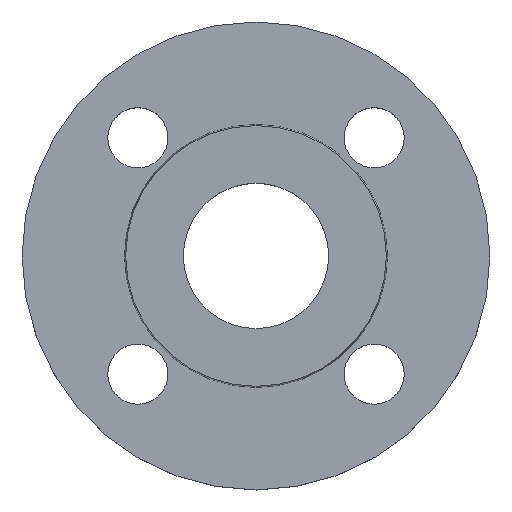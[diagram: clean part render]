
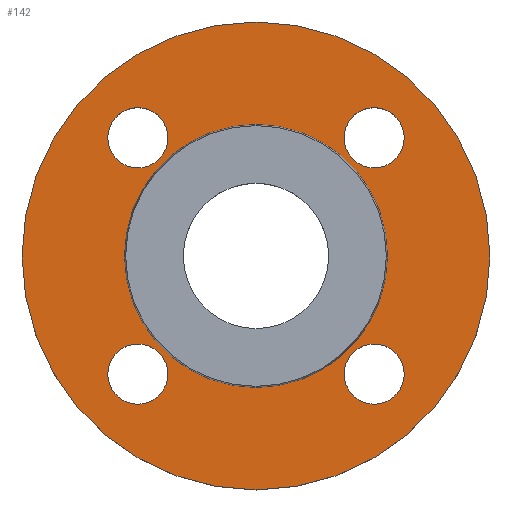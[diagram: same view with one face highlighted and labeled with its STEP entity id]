
A CAD part, top view. The second image highlights one B-rep face of the part: STEP entity #142.
In plain terms, the highlighted planar face has unit normal (0, 0, 1).
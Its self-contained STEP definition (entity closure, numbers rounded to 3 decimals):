
#6 = AXIS2_PLACEMENT_3D ( 'NONE', #290, #473, #72 ) ;
#14 = CIRCLE ( 'NONE', #439, 9. ) ;
#16 = DIRECTION ( 'NONE',  ( 1., 0., 0. ) ) ;
#24 = DIRECTION ( 'NONE',  ( 1., 0., 0. ) ) ;
#33 = CARTESIAN_POINT ( 'NONE',  ( 35.355, -35.355, -2. ) ) ;
#34 = DIRECTION ( 'NONE',  ( 1., 0., 0. ) ) ;
#39 = DIRECTION ( 'NONE',  ( -1., 0., 0. ) ) ;
#43 = CIRCLE ( 'NONE', #365, 9. ) ;
#47 = ORIENTED_EDGE ( 'NONE', *, *, #511, .T. ) ;
#54 = PLANE ( 'NONE',  #230 ) ;
#55 = AXIS2_PLACEMENT_3D ( 'NONE', #95, #269, #453 ) ;
#67 = CARTESIAN_POINT ( 'NONE',  ( -26.355, -35.355, -2. ) ) ;
#71 = EDGE_LOOP ( 'NONE', ( #47, #252 ) ) ;
#72 = DIRECTION ( 'NONE',  ( -1., 0., 0. ) ) ;
#78 = DIRECTION ( 'NONE',  ( 1., 0., 0. ) ) ;
#79 = EDGE_CURVE ( 'NONE', #83, #446, #457, .T. ) ;
#83 = VERTEX_POINT ( 'NONE', #134 ) ;
#84 = AXIS2_PLACEMENT_3D ( 'NONE', #140, #321, #513 ) ;
#86 = AXIS2_PLACEMENT_3D ( 'NONE', #250, #433, #34 ) ;
#87 = ORIENTED_EDGE ( 'NONE', *, *, #444, .T. ) ;
#91 = VERTEX_POINT ( 'NONE', #315 ) ;
#94 = VERTEX_POINT ( 'NONE', #505 ) ;
#95 = CARTESIAN_POINT ( 'NONE',  ( 0., 0., -2. ) ) ;
#97 = FACE_BOUND ( 'NONE', #71, .T. ) ;
#104 = CIRCLE ( 'NONE', #443, 9. ) ;
#106 = CARTESIAN_POINT ( 'NONE',  ( 26.355, 35.355, -2. ) ) ;
#110 = EDGE_CURVE ( 'NONE', #582, #528, #369, .T. ) ;
#111 = CARTESIAN_POINT ( 'NONE',  ( 39.353, 0., -2. ) ) ;
#116 = DIRECTION ( 'NONE',  ( 1., 0., 0. ) ) ;
#126 = AXIS2_PLACEMENT_3D ( 'NONE', #179, #357, #554 ) ;
#134 = CARTESIAN_POINT ( 'NONE',  ( -44.355, 35.355, -2. ) ) ;
#135 = ORIENTED_EDGE ( 'NONE', *, *, #261, .T. ) ;
#136 = ORIENTED_EDGE ( 'NONE', *, *, #79, .T. ) ;
#137 = FACE_BOUND ( 'NONE', #560, .T. ) ;
#140 = CARTESIAN_POINT ( 'NONE',  ( -35.355, 35.355, -2. ) ) ;
#142 = ADVANCED_FACE ( 'NONE', ( #137, #317, #509, #97, #272, #456 ), #54, .T. ) ;
#145 = EDGE_CURVE ( 'NONE', #446, #83, #407, .T. ) ;
#155 = CARTESIAN_POINT ( 'NONE',  ( 0., 0., -2. ) ) ;
#158 = ORIENTED_EDGE ( 'NONE', *, *, #459, .T. ) ;
#161 = CARTESIAN_POINT ( 'NONE',  ( 44.355, -35.355, -2. ) ) ;
#162 = CARTESIAN_POINT ( 'NONE',  ( -26.355, 35.355, -2. ) ) ;
#176 = ORIENTED_EDGE ( 'NONE', *, *, #521, .T. ) ;
#179 = CARTESIAN_POINT ( 'NONE',  ( -35.355, 35.355, -2. ) ) ;
#184 = CIRCLE ( 'NONE', #6, 39.353 ) ;
#185 = VERTEX_POINT ( 'NONE', #67 ) ;
#187 = CIRCLE ( 'NONE', #522, 9. ) ;
#198 = EDGE_CURVE ( 'NONE', #400, #218, #14, .T. ) ;
#203 = CARTESIAN_POINT ( 'NONE',  ( 35.355, -35.355, -2. ) ) ;
#206 = ORIENTED_EDGE ( 'NONE', *, *, #350, .T. ) ;
#208 = DIRECTION ( 'NONE',  ( 0., 0., -1. ) ) ;
#212 = CARTESIAN_POINT ( 'NONE',  ( 70., 0., -2. ) ) ;
#218 = VERTEX_POINT ( 'NONE', #373 ) ;
#223 = CIRCLE ( 'NONE', #563, 9. ) ;
#229 = CARTESIAN_POINT ( 'NONE',  ( 39.353, 0., -2. ) ) ;
#230 = AXIS2_PLACEMENT_3D ( 'NONE', #229, #409, #16 ) ;
#239 = EDGE_CURVE ( 'NONE', #528, #582, #517, .T. ) ;
#240 = CARTESIAN_POINT ( 'NONE',  ( 35.355, 35.355, -2. ) ) ;
#244 = VERTEX_POINT ( 'NONE', #111 ) ;
#250 = CARTESIAN_POINT ( 'NONE',  ( -35.355, -35.355, -2. ) ) ;
#252 = ORIENTED_EDGE ( 'NONE', *, *, #198, .T. ) ;
#254 = CARTESIAN_POINT ( 'NONE',  ( 0., 0., -2. ) ) ;
#255 = AXIS2_PLACEMENT_3D ( 'NONE', #155, #332, #530 ) ;
#256 = EDGE_LOOP ( 'NONE', ( #135, #176 ) ) ;
#257 = ORIENTED_EDGE ( 'NONE', *, *, #145, .T. ) ;
#259 = ORIENTED_EDGE ( 'NONE', *, *, #110, .F. ) ;
#261 = EDGE_CURVE ( 'NONE', #94, #244, #184, .T. ) ;
#263 = CIRCLE ( 'NONE', #337, 39.353 ) ;
#269 = DIRECTION ( 'NONE',  ( 0., 0., -1. ) ) ;
#272 = FACE_BOUND ( 'NONE', #256, .T. ) ;
#273 = EDGE_LOOP ( 'NONE', ( #385, #259 ) ) ;
#287 = CARTESIAN_POINT ( 'NONE',  ( -70., 0., -2. ) ) ;
#290 = CARTESIAN_POINT ( 'NONE',  ( 0., 0., -2. ) ) ;
#297 = CARTESIAN_POINT ( 'NONE',  ( 35.355, 35.355, -2. ) ) ;
#314 = VERTEX_POINT ( 'NONE', #161 ) ;
#315 = CARTESIAN_POINT ( 'NONE',  ( -44.355, -35.355, -2. ) ) ;
#317 = FACE_BOUND ( 'NONE', #551, .T. ) ;
#321 = DIRECTION ( 'NONE',  ( 0., 0., -1. ) ) ;
#328 = CIRCLE ( 'NONE', #86, 9. ) ;
#332 = DIRECTION ( 'NONE',  ( 0., 0., -1. ) ) ;
#337 = AXIS2_PLACEMENT_3D ( 'NONE', #254, #440, #39 ) ;
#339 = CARTESIAN_POINT ( 'NONE',  ( -35.355, -35.355, -2. ) ) ;
#350 = EDGE_CURVE ( 'NONE', #314, #583, #223, .T. ) ;
#351 = EDGE_LOOP ( 'NONE', ( #257, #136 ) ) ;
#357 = DIRECTION ( 'NONE',  ( 0., 0., -1. ) ) ;
#365 = AXIS2_PLACEMENT_3D ( 'NONE', #297, #481, #78 ) ;
#369 = CIRCLE ( 'NONE', #55, 70. ) ;
#373 = CARTESIAN_POINT ( 'NONE',  ( 44.355, 35.355, -2. ) ) ;
#381 = DIRECTION ( 'NONE',  ( 0., 0., -1. ) ) ;
#385 = ORIENTED_EDGE ( 'NONE', *, *, #239, .F. ) ;
#386 = DIRECTION ( 'NONE',  ( 1., 0., 0. ) ) ;
#400 = VERTEX_POINT ( 'NONE', #106 ) ;
#407 = CIRCLE ( 'NONE', #84, 9. ) ;
#409 = DIRECTION ( 'NONE',  ( 0., 0., 1. ) ) ;
#411 = ORIENTED_EDGE ( 'NONE', *, *, #449, .T. ) ;
#421 = DIRECTION ( 'NONE',  ( 0., 0., -1. ) ) ;
#433 = DIRECTION ( 'NONE',  ( 0., 0., -1. ) ) ;
#439 = AXIS2_PLACEMENT_3D ( 'NONE', #240, #421, #24 ) ;
#440 = DIRECTION ( 'NONE',  ( 0., 0., -1. ) ) ;
#443 = AXIS2_PLACEMENT_3D ( 'NONE', #203, #381, #579 ) ;
#444 = EDGE_CURVE ( 'NONE', #583, #314, #104, .T. ) ;
#446 = VERTEX_POINT ( 'NONE', #162 ) ;
#449 = EDGE_CURVE ( 'NONE', #185, #91, #187, .T. ) ;
#453 = DIRECTION ( 'NONE',  ( -1., 0., 0. ) ) ;
#456 = FACE_OUTER_BOUND ( 'NONE', #273, .T. ) ;
#457 = CIRCLE ( 'NONE', #126, 9. ) ;
#459 = EDGE_CURVE ( 'NONE', #91, #185, #328, .T. ) ;
#471 = CARTESIAN_POINT ( 'NONE',  ( 26.355, -35.355, -2. ) ) ;
#473 = DIRECTION ( 'NONE',  ( 0., 0., -1. ) ) ;
#481 = DIRECTION ( 'NONE',  ( 0., 0., -1. ) ) ;
#505 = CARTESIAN_POINT ( 'NONE',  ( -39.353, 0., -2. ) ) ;
#509 = FACE_BOUND ( 'NONE', #351, .T. ) ;
#511 = EDGE_CURVE ( 'NONE', #218, #400, #43, .T. ) ;
#513 = DIRECTION ( 'NONE',  ( 1., 0., 0. ) ) ;
#517 = CIRCLE ( 'NONE', #255, 70. ) ;
#521 = EDGE_CURVE ( 'NONE', #244, #94, #263, .T. ) ;
#522 = AXIS2_PLACEMENT_3D ( 'NONE', #339, #535, #116 ) ;
#528 = VERTEX_POINT ( 'NONE', #212 ) ;
#530 = DIRECTION ( 'NONE',  ( -1., 0., 0. ) ) ;
#535 = DIRECTION ( 'NONE',  ( 0., 0., -1. ) ) ;
#551 = EDGE_LOOP ( 'NONE', ( #411, #158 ) ) ;
#554 = DIRECTION ( 'NONE',  ( 1., 0., 0. ) ) ;
#560 = EDGE_LOOP ( 'NONE', ( #206, #87 ) ) ;
#563 = AXIS2_PLACEMENT_3D ( 'NONE', #33, #208, #386 ) ;
#579 = DIRECTION ( 'NONE',  ( 1., 0., 0. ) ) ;
#582 = VERTEX_POINT ( 'NONE', #287 ) ;
#583 = VERTEX_POINT ( 'NONE', #471 ) ;
